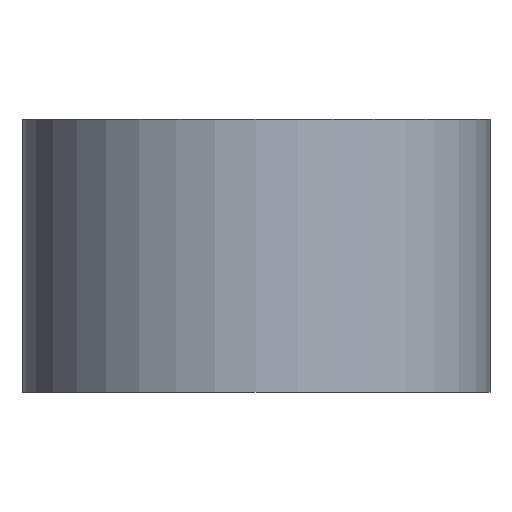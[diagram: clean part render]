
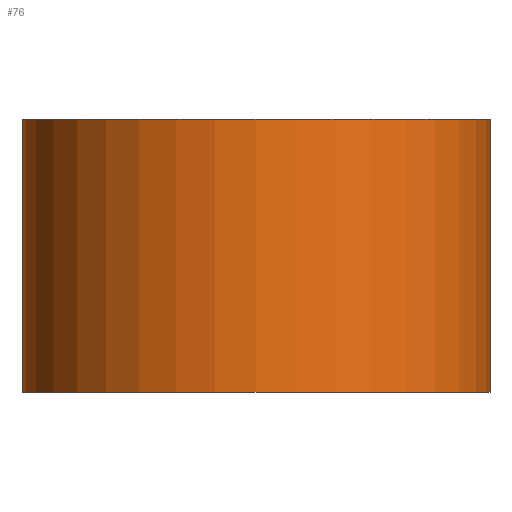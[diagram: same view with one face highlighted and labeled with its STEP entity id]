
A CAD part, front view. The second image highlights one B-rep face of the part: STEP entity #76.
In plain terms, the highlighted cylindrical face has radius 6 mm (diameter 12 mm), a partial arc.
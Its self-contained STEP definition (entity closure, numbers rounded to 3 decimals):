
#60=CYLINDRICAL_SURFACE('',#393,6.);
#76=ADVANCED_FACE('',(#96),#60,.T.);
#96=FACE_OUTER_BOUND('',#116,.F.);
#116=EDGE_LOOP('',(#171,#172,#173,#174,#175,#176));
#171=ORIENTED_EDGE('',*,*,#255,.F.);
#172=ORIENTED_EDGE('',*,*,#274,.T.);
#173=ORIENTED_EDGE('',*,*,#256,.T.);
#174=ORIENTED_EDGE('',*,*,#272,.F.);
#175=ORIENTED_EDGE('',*,*,#275,.T.);
#176=ORIENTED_EDGE('',*,*,#271,.T.);
#238=CIRCLE('',#376,6.);
#239=CIRCLE('',#377,6.);
#255=EDGE_CURVE('',#354,#352,#294,.T.);
#256=EDGE_CURVE('',#350,#351,#295,.T.);
#271=EDGE_CURVE('',#345,#352,#304,.T.);
#272=EDGE_CURVE('',#344,#351,#305,.T.);
#274=EDGE_CURVE('',#354,#350,#238,.T.);
#275=EDGE_CURVE('',#344,#345,#239,.T.);
#294=LINE('',#547,#318);
#295=LINE('',#548,#319);
#304=LINE('',#563,#328);
#305=LINE('',#564,#329);
#318=VECTOR('',#421,3.);
#319=VECTOR('',#422,3.);
#328=VECTOR('',#443,4.);
#329=VECTOR('',#444,4.);
#344=VERTEX_POINT('',#520);
#345=VERTEX_POINT('',#521);
#350=VERTEX_POINT('',#526);
#351=VERTEX_POINT('',#527);
#352=VERTEX_POINT('',#528);
#354=VERTEX_POINT('',#530);
#376=AXIS2_PLACEMENT_3D('',#566,#447,#448);
#377=AXIS2_PLACEMENT_3D('',#567,#449,#450);
#393=AXIS2_PLACEMENT_3D('',#591,#489,#490);
#421=DIRECTION('',(0.,0.,1.));
#422=DIRECTION('',(0.,0.,1.));
#443=DIRECTION('',(0.,0.,-1.));
#444=DIRECTION('',(0.,0.,-1.));
#447=DIRECTION('',(0.,0.,-1.));
#448=DIRECTION('',(1.,0.,0.));
#449=DIRECTION('',(0.,0.,1.));
#450=DIRECTION('',(-1.,0.,0.));
#489=DIRECTION('',(0.,0.,1.));
#490=DIRECTION('',(-1.,0.,0.));
#520=CARTESIAN_POINT('',(227.333,875.532,276.577));
#521=CARTESIAN_POINT('',(239.333,875.532,276.577));
#526=CARTESIAN_POINT('',(227.333,875.532,269.577));
#527=CARTESIAN_POINT('',(227.333,875.532,272.577));
#528=CARTESIAN_POINT('',(239.333,875.532,272.577));
#530=CARTESIAN_POINT('',(239.333,875.532,269.577));
#547=CARTESIAN_POINT('',(239.333,875.532,269.577));
#548=CARTESIAN_POINT('',(227.333,875.532,269.577));
#563=CARTESIAN_POINT('',(239.333,875.532,276.577));
#564=CARTESIAN_POINT('',(227.333,875.532,276.577));
#566=CARTESIAN_POINT('',(233.333,875.532,269.577));
#567=CARTESIAN_POINT('',(233.333,875.532,276.577));
#591=CARTESIAN_POINT('',(233.333,875.532,276.577));
